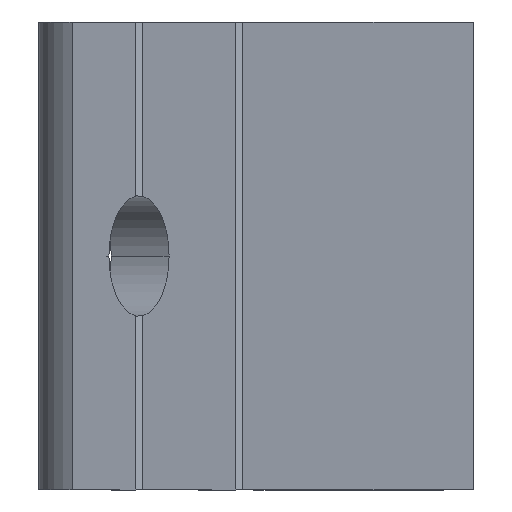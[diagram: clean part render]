
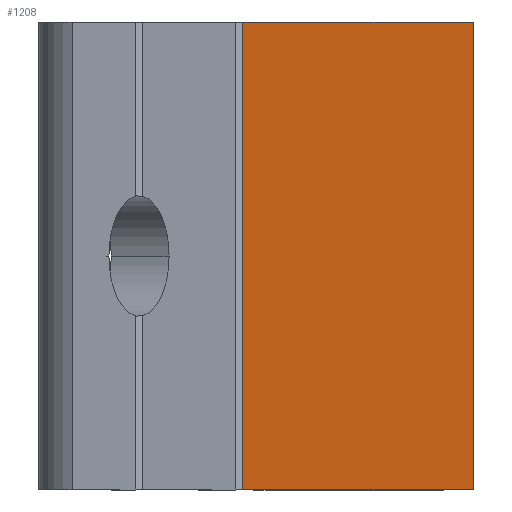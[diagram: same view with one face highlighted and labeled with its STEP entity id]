
A CAD part, left-side view. The second image highlights one B-rep face of the part: STEP entity #1208.
In plain terms, the highlighted planar face has unit normal (-0.5, -0.866, 0).
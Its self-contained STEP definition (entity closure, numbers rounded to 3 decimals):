
#58 = VERTEX_POINT ( 'NONE', #440 ) ;
#80 = CARTESIAN_POINT ( 'NONE',  ( -29.878, 17.25, 0. ) ) ;
#82 = CARTESIAN_POINT ( 'NONE',  ( -29.878, 17.25, 35. ) ) ;
#84 = ORIENTED_EDGE ( 'NONE', *, *, #575, .T. ) ;
#88 = ORIENTED_EDGE ( 'NONE', *, *, #201, .T. ) ;
#196 = DIRECTION ( 'NONE',  ( 0.866, -0.5, 0. ) ) ;
#201 = EDGE_CURVE ( 'NONE', #466, #58, #307, .T. ) ;
#210 = AXIS2_PLACEMENT_3D ( 'NONE', #598, #455, #1671 ) ;
#289 = EDGE_CURVE ( 'NONE', #1241, #599, #1000, .T. ) ;
#307 = LINE ( 'NONE', #832, #1630 ) ;
#329 = EDGE_LOOP ( 'NONE', ( #345, #758, #84, #88 ) ) ;
#345 = ORIENTED_EDGE ( 'NONE', *, *, #980, .F. ) ;
#440 = CARTESIAN_POINT ( 'NONE',  ( 0., 0., 0. ) ) ;
#455 = DIRECTION ( 'NONE',  ( -0.5, -0.866, 0. ) ) ;
#466 = VERTEX_POINT ( 'NONE', #538 ) ;
#538 = CARTESIAN_POINT ( 'NONE',  ( -29.878, 17.25, 0. ) ) ;
#575 = EDGE_CURVE ( 'NONE', #1241, #466, #990, .T. ) ;
#584 = CARTESIAN_POINT ( 'NONE',  ( 0., 0., 0. ) ) ;
#598 = CARTESIAN_POINT ( 'NONE',  ( 0., 0., 0. ) ) ;
#599 = VERTEX_POINT ( 'NONE', #862 ) ;
#684 = VECTOR ( 'NONE', #1108, 1000. ) ;
#758 = ORIENTED_EDGE ( 'NONE', *, *, #289, .F. ) ;
#832 = CARTESIAN_POINT ( 'NONE',  ( -29.878, 17.25, 0. ) ) ;
#862 = CARTESIAN_POINT ( 'NONE',  ( 0., 0., 35. ) ) ;
#915 = DIRECTION ( 'NONE',  ( 0.866, -0.5, 0. ) ) ;
#973 = PLANE ( 'NONE',  #210 ) ;
#980 = EDGE_CURVE ( 'NONE', #599, #58, #1099, .T. ) ;
#985 = VECTOR ( 'NONE', #915, 1000. ) ;
#990 = LINE ( 'NONE', #80, #1382 ) ;
#1000 = LINE ( 'NONE', #82, #985 ) ;
#1099 = LINE ( 'NONE', #584, #684 ) ;
#1108 = DIRECTION ( 'NONE',  ( 0., 0., -1. ) ) ;
#1113 = FACE_OUTER_BOUND ( 'NONE', #329, .T. ) ;
#1208 = ADVANCED_FACE ( 'NONE', ( #1113 ), #973, .T. ) ;
#1241 = VERTEX_POINT ( 'NONE', #1545 ) ;
#1382 = VECTOR ( 'NONE', #1646, 1000. ) ;
#1545 = CARTESIAN_POINT ( 'NONE',  ( -29.878, 17.25, 35. ) ) ;
#1630 = VECTOR ( 'NONE', #196, 1000. ) ;
#1646 = DIRECTION ( 'NONE',  ( 0., 0., -1. ) ) ;
#1671 = DIRECTION ( 'NONE',  ( 0.866, -0.5, 0. ) ) ;
